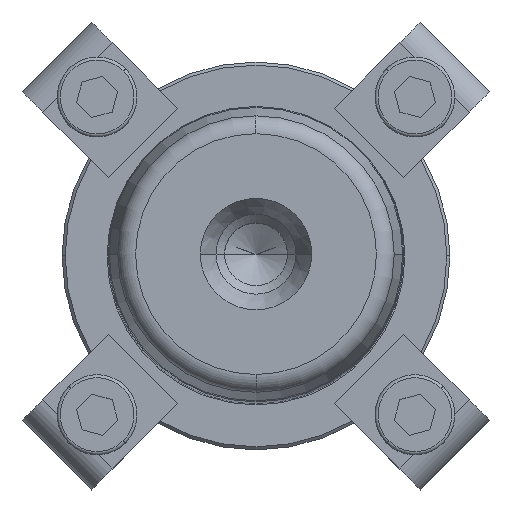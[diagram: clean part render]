
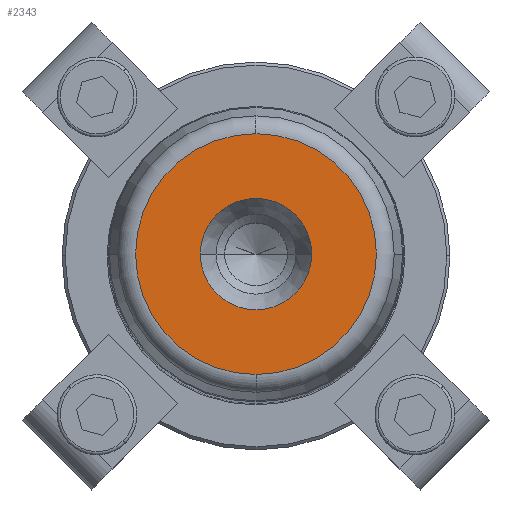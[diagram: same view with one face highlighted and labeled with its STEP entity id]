
A CAD part, top view. The second image highlights one B-rep face of the part: STEP entity #2343.
In plain terms, the highlighted planar face has unit normal (0, 0, 1).
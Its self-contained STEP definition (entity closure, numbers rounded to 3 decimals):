
#431=CARTESIAN_POINT('',(9.05,0.,180.0));
#432=VERTEX_POINT('',#431);
#439=CARTESIAN_POINT('',(-9.05,0.,180.0));
#440=VERTEX_POINT('',#439);
#441=CARTESIAN_POINT('',(0.0,0.,180.0));
#442=DIRECTION('',(0.0,0.0,1.0));
#443=DIRECTION('',(1.0,0.0,0.0));
#444=AXIS2_PLACEMENT_3D('',#441,#442,#443);
#445=CIRCLE('',#444,9.05);
#446=EDGE_CURVE('',#432,#440,#445,.T.);
#463=CARTESIAN_POINT('',(0.0,-19.554,180.0));
#464=VERTEX_POINT('',#463);
#474=CARTESIAN_POINT('',(0.,19.554,180.0));
#475=VERTEX_POINT('',#474);
#476=CARTESIAN_POINT('',(0.0,0.,180.0));
#477=DIRECTION('',(0.0,0.0,1.0));
#478=DIRECTION('',(1.0,0.0,0.0));
#479=AXIS2_PLACEMENT_3D('',#476,#477,#478);
#480=CIRCLE('',#479,19.554);
#481=EDGE_CURVE('',#475,#464,#480,.T.);
#2304=CARTESIAN_POINT('',(19.554,0.,180.0));
#2305=VERTEX_POINT('',#2304);
#2306=CARTESIAN_POINT('',(0.0,0.,180.0));
#2307=DIRECTION('',(0.0,0.0,1.0));
#2308=DIRECTION('',(1.0,0.0,0.0));
#2309=AXIS2_PLACEMENT_3D('',#2306,#2307,#2308);
#2310=CIRCLE('',#2309,19.554);
#2311=EDGE_CURVE('',#2305,#475,#2310,.T.);
#2313=CARTESIAN_POINT('',(0.0,0.,180.0));
#2314=DIRECTION('',(0.0,0.0,1.0));
#2315=DIRECTION('',(1.0,0.0,0.0));
#2316=AXIS2_PLACEMENT_3D('',#2313,#2314,#2315);
#2317=CIRCLE('',#2316,19.554);
#2318=EDGE_CURVE('',#464,#2305,#2317,.T.);
#2323=CARTESIAN_POINT('',(14.302,0.,180.0));
#2324=DIRECTION('',(0.0,0.0,1.0));
#2325=DIRECTION('',(0.0,-1.0,0.0));
#2326=AXIS2_PLACEMENT_3D('',#2323,#2324,#2325);
#2327=PLANE('',#2326);
#2328=ORIENTED_EDGE('',*,*,#2311,.T.);
#2329=ORIENTED_EDGE('',*,*,#481,.T.);
#2330=ORIENTED_EDGE('',*,*,#2318,.T.);
#2331=EDGE_LOOP('',(#2328,#2329,#2330));
#2332=FACE_OUTER_BOUND('',#2331,.T.);
#2333=ORIENTED_EDGE('',*,*,#446,.F.);
#2334=CARTESIAN_POINT('',(0.0,0.,180.0));
#2335=DIRECTION('',(0.0,0.0,1.0));
#2336=DIRECTION('',(1.0,0.0,0.0));
#2337=AXIS2_PLACEMENT_3D('',#2334,#2335,#2336);
#2338=CIRCLE('',#2337,9.05);
#2339=EDGE_CURVE('',#440,#432,#2338,.T.);
#2340=ORIENTED_EDGE('',*,*,#2339,.F.);
#2341=EDGE_LOOP('',(#2333,#2340));
#2342=FACE_BOUND('',#2341,.T.);
#2343=ADVANCED_FACE('',(#2332,#2342),#2327,.T.);
